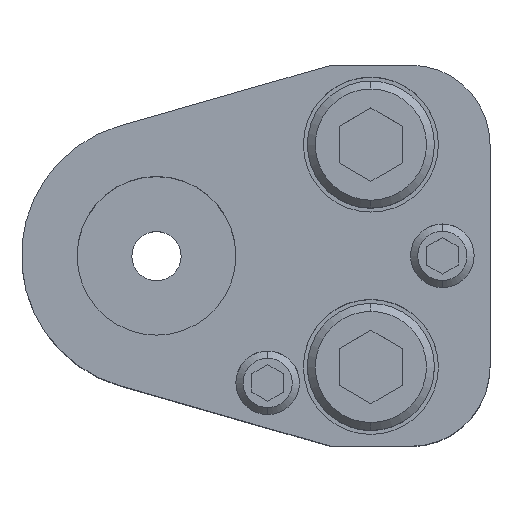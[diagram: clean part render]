
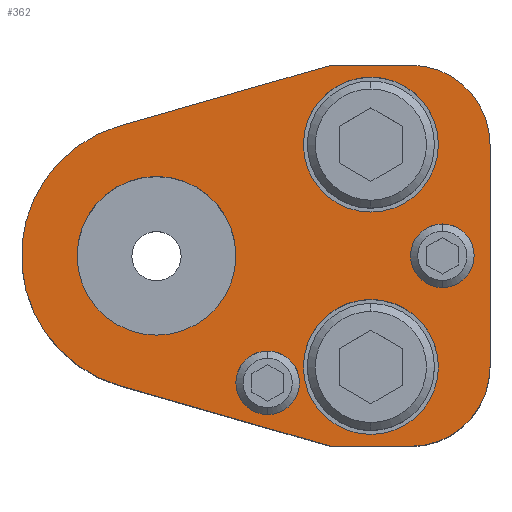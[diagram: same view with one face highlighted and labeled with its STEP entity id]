
A CAD part, top view. The second image highlights one B-rep face of the part: STEP entity #362.
In plain terms, the highlighted planar face has unit normal (0, 0, 1).
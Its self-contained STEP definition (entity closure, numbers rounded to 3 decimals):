
#134=PLANE('',#2717);
#203=FACE_BOUND('',#693,.T.);
#204=FACE_BOUND('',#694,.T.);
#205=FACE_BOUND('',#695,.T.);
#206=FACE_BOUND('',#696,.T.);
#207=FACE_BOUND('',#697,.T.);
#208=FACE_BOUND('',#698,.T.);
#362=ADVANCED_FACE('',(#203,#204,#205,#206,#207,#208),#134,.T.);
#693=EDGE_LOOP('',(#1255,#1256,#1257,#1258,#1259,#1260,#1261,#1262));
#694=EDGE_LOOP('',(#1263,#1264));
#695=EDGE_LOOP('',(#1265,#1266));
#696=EDGE_LOOP('',(#1267,#1268));
#697=EDGE_LOOP('',(#1269,#1270));
#698=EDGE_LOOP('',(#1271,#1272));
#845=CIRCLE('',#2656,17.);
#847=CIRCLE('',#2661,10.);
#849=CIRCLE('',#2665,10.);
#867=CIRCLE('',#2693,8.5);
#869=CIRCLE('',#2696,8.5);
#871=CIRCLE('',#2700,8.5);
#873=CIRCLE('',#2703,8.5);
#877=CIRCLE('',#2711,4.);
#878=CIRCLE('',#2712,4.);
#879=CIRCLE('',#2713,4.);
#880=CIRCLE('',#2714,4.);
#881=CIRCLE('',#2715,10.);
#882=CIRCLE('',#2716,10.);
#1255=ORIENTED_EDGE('',*,*,#1942,.T.);
#1256=ORIENTED_EDGE('',*,*,#1946,.T.);
#1257=ORIENTED_EDGE('',*,*,#1949,.T.);
#1258=ORIENTED_EDGE('',*,*,#1952,.T.);
#1259=ORIENTED_EDGE('',*,*,#1955,.T.);
#1260=ORIENTED_EDGE('',*,*,#1958,.T.);
#1261=ORIENTED_EDGE('',*,*,#1961,.T.);
#1262=ORIENTED_EDGE('',*,*,#1964,.T.);
#1263=ORIENTED_EDGE('',*,*,#2003,.F.);
#1264=ORIENTED_EDGE('',*,*,#2004,.F.);
#1265=ORIENTED_EDGE('',*,*,#2005,.F.);
#1266=ORIENTED_EDGE('',*,*,#2006,.F.);
#1267=ORIENTED_EDGE('',*,*,#1997,.F.);
#1268=ORIENTED_EDGE('',*,*,#1993,.F.);
#1269=ORIENTED_EDGE('',*,*,#1991,.F.);
#1270=ORIENTED_EDGE('',*,*,#1987,.F.);
#1271=ORIENTED_EDGE('',*,*,#2007,.T.);
#1272=ORIENTED_EDGE('',*,*,#2008,.T.);
#1686=VERTEX_POINT('',#3916);
#1687=VERTEX_POINT('',#3918);
#1690=VERTEX_POINT('',#3925);
#1692=VERTEX_POINT('',#3931);
#1694=VERTEX_POINT('',#3937);
#1696=VERTEX_POINT('',#3943);
#1698=VERTEX_POINT('',#3949);
#1700=VERTEX_POINT('',#3955);
#1717=VERTEX_POINT('',#4008);
#1718=VERTEX_POINT('',#4009);
#1721=VERTEX_POINT('',#4021);
#1722=VERTEX_POINT('',#4022);
#1727=VERTEX_POINT('',#4042);
#1728=VERTEX_POINT('',#4043);
#1729=VERTEX_POINT('',#4046);
#1730=VERTEX_POINT('',#4047);
#1731=VERTEX_POINT('',#4050);
#1732=VERTEX_POINT('',#4051);
#1942=EDGE_CURVE('',#1687,#1686,#845,.T.);
#1946=EDGE_CURVE('',#1686,#1690,#2226,.T.);
#1949=EDGE_CURVE('',#1690,#1692,#2229,.T.);
#1952=EDGE_CURVE('',#1692,#1694,#847,.T.);
#1955=EDGE_CURVE('',#1694,#1696,#2233,.T.);
#1958=EDGE_CURVE('',#1696,#1698,#849,.T.);
#1961=EDGE_CURVE('',#1698,#1700,#2237,.T.);
#1964=EDGE_CURVE('',#1700,#1687,#2240,.T.);
#1987=EDGE_CURVE('',#1717,#1718,#867,.T.);
#1991=EDGE_CURVE('',#1718,#1717,#869,.T.);
#1993=EDGE_CURVE('',#1721,#1722,#871,.T.);
#1997=EDGE_CURVE('',#1722,#1721,#873,.T.);
#2003=EDGE_CURVE('',#1727,#1728,#877,.T.);
#2004=EDGE_CURVE('',#1728,#1727,#878,.T.);
#2005=EDGE_CURVE('',#1729,#1730,#879,.T.);
#2006=EDGE_CURVE('',#1730,#1729,#880,.T.);
#2007=EDGE_CURVE('',#1731,#1732,#881,.T.);
#2008=EDGE_CURVE('',#1732,#1731,#882,.T.);
#2226=LINE('',#3926,#2416);
#2229=LINE('',#3932,#2419);
#2233=LINE('',#3944,#2423);
#2237=LINE('',#3956,#2427);
#2240=LINE('',#3960,#2430);
#2416=VECTOR('',#3113,1.);
#2419=VECTOR('',#3118,1.);
#2423=VECTOR('',#3130,1.);
#2427=VECTOR('',#3142,1.);
#2430=VECTOR('',#3147,1.);
#2656=AXIS2_PLACEMENT_3D('',#3917,#3105,#3106);
#2661=AXIS2_PLACEMENT_3D('',#3938,#3123,#3124);
#2665=AXIS2_PLACEMENT_3D('',#3950,#3135,#3136);
#2693=AXIS2_PLACEMENT_3D('',#4007,#3202,#3203);
#2696=AXIS2_PLACEMENT_3D('',#4016,#3210,#3211);
#2700=AXIS2_PLACEMENT_3D('',#4020,#3218,#3219);
#2703=AXIS2_PLACEMENT_3D('',#4029,#3226,#3227);
#2711=AXIS2_PLACEMENT_3D('',#4041,#3244,#3245);
#2712=AXIS2_PLACEMENT_3D('',#4044,#3246,#3247);
#2713=AXIS2_PLACEMENT_3D('',#4045,#3248,#3249);
#2714=AXIS2_PLACEMENT_3D('',#4048,#3250,#3251);
#2715=AXIS2_PLACEMENT_3D('',#4049,#3252,#3253);
#2716=AXIS2_PLACEMENT_3D('',#4052,#3254,#3255);
#2717=AXIS2_PLACEMENT_3D('',#4053,#3256,#3257);
#3105=DIRECTION('',(0.,0.,1.));
#3106=DIRECTION('',(-0.106,0.994,0.));
#3113=DIRECTION('',(0.961,-0.276,0.));
#3118=DIRECTION('',(1.,0.,0.));
#3123=DIRECTION('',(0.,0.,1.));
#3124=DIRECTION('',(-0.707,0.707,0.));
#3130=DIRECTION('',(0.,1.,0.));
#3135=DIRECTION('',(0.,0.,1.));
#3136=DIRECTION('',(-0.707,-0.707,0.));
#3142=DIRECTION('',(-1.,0.,0.));
#3147=DIRECTION('',(-0.961,-0.276,0.));
#3202=DIRECTION('',(0.,0.,1.));
#3203=DIRECTION('',(-1.,0.,0.));
#3210=DIRECTION('',(0.,0.,1.));
#3211=DIRECTION('',(1.,0.,0.));
#3218=DIRECTION('',(0.,0.,1.));
#3219=DIRECTION('',(-1.,0.,0.));
#3226=DIRECTION('',(0.,0.,1.));
#3227=DIRECTION('',(1.,0.,0.));
#3244=DIRECTION('',(0.,0.,1.));
#3245=DIRECTION('',(1.,0.,0.));
#3246=DIRECTION('',(0.,0.,1.));
#3247=DIRECTION('',(-1.,0.,0.));
#3248=DIRECTION('',(0.,0.,1.));
#3249=DIRECTION('',(1.,0.,0.));
#3250=DIRECTION('',(0.,0.,1.));
#3251=DIRECTION('',(-1.,0.,0.));
#3252=DIRECTION('',(0.,0.,-1.));
#3253=DIRECTION('',(-1.,0.,0.));
#3254=DIRECTION('',(0.,0.,-1.));
#3255=DIRECTION('',(1.,0.,0.));
#3256=DIRECTION('',(0.,0.,1.));
#3257=DIRECTION('',(0.961,0.276,0.));
#3916=CARTESIAN_POINT('',(-4.69,-16.34,35.));
#3917=CARTESIAN_POINT('',(0.,0.,35.));
#3918=CARTESIAN_POINT('',(-4.69,16.34,35.));
#3925=CARTESIAN_POINT('',(22.,-24.,35.));
#3926=CARTESIAN_POINT('',(22.,-24.,35.));
#3931=CARTESIAN_POINT('',(32.,-24.,35.));
#3932=CARTESIAN_POINT('',(32.,-24.,35.));
#3937=CARTESIAN_POINT('',(42.,-14.,35.));
#3938=CARTESIAN_POINT('',(32.,-14.,35.));
#3943=CARTESIAN_POINT('',(42.,14.,35.));
#3944=CARTESIAN_POINT('',(42.,14.,35.));
#3949=CARTESIAN_POINT('',(32.,24.,35.));
#3950=CARTESIAN_POINT('',(32.,14.,35.));
#3955=CARTESIAN_POINT('',(22.,24.,35.));
#3956=CARTESIAN_POINT('',(32.,24.,35.));
#3960=CARTESIAN_POINT('',(22.,24.,35.));
#4007=CARTESIAN_POINT('',(27.,14.,35.));
#4008=CARTESIAN_POINT('',(27.,5.5,35.));
#4009=CARTESIAN_POINT('',(27.,22.5,35.));
#4016=CARTESIAN_POINT('',(27.,14.,35.));
#4020=CARTESIAN_POINT('',(27.,-14.,35.));
#4021=CARTESIAN_POINT('',(27.,-22.5,35.));
#4022=CARTESIAN_POINT('',(27.,-5.5,35.));
#4029=CARTESIAN_POINT('',(27.,-14.,35.));
#4041=CARTESIAN_POINT('',(14.,-16.,35.));
#4042=CARTESIAN_POINT('',(14.,-12.,35.));
#4043=CARTESIAN_POINT('',(14.,-20.,35.));
#4044=CARTESIAN_POINT('',(14.,-16.,35.));
#4045=CARTESIAN_POINT('',(36.,0.,35.));
#4046=CARTESIAN_POINT('',(36.,4.,35.));
#4047=CARTESIAN_POINT('',(36.,-4.,35.));
#4048=CARTESIAN_POINT('',(36.,0.,35.));
#4049=CARTESIAN_POINT('',(0.,0.,35.));
#4050=CARTESIAN_POINT('',(0.,10.,35.));
#4051=CARTESIAN_POINT('',(0.,-10.,35.));
#4052=CARTESIAN_POINT('',(0.,0.,35.));
#4053=CARTESIAN_POINT('',(-4.69,16.34,35.));
